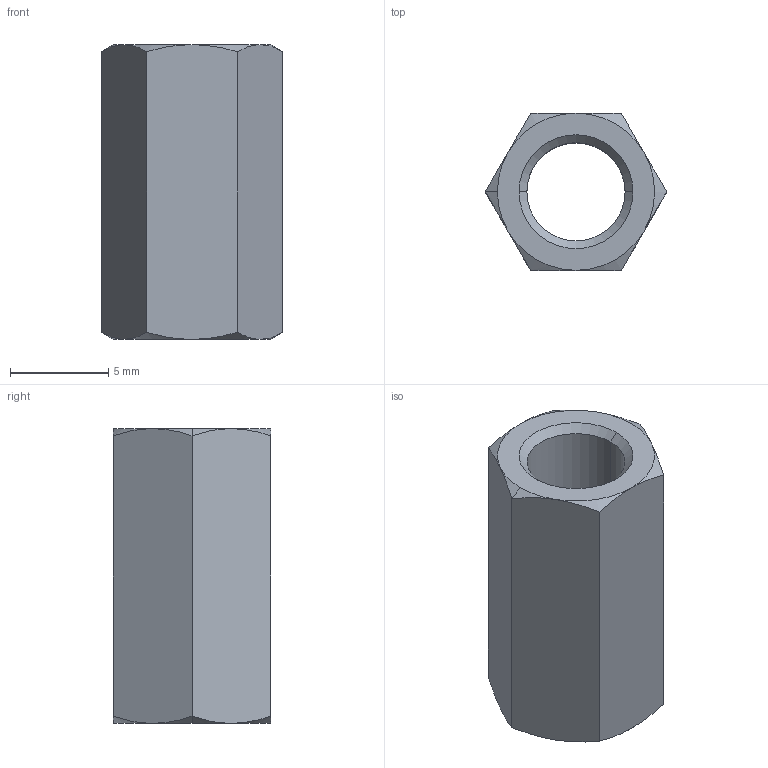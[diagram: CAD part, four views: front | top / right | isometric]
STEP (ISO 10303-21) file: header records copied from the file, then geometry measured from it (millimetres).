
FILE_DESCRIPTION (( 'STEP AP203' ), '1' );
FILE_NAME ('N0503.050-015-NP.step', '2025-02-27T14:44:08', ( '' ), ( '' ), 'SwSTEP 2.0', 'SolidWorks 2019', '' );
FILE_SCHEMA (( 'CONFIG_CONTROL_DESIGN' ));
Length unit declared in the file: millimetre
Products named in the file (1): N0503.050-015-NP
Bounding box: 9.24 x 8 x 15 mm (x, y, z)
Volume: 533.1 mm3; surface area: 710.7 mm2
Topology: 1 solids, 1 shells, 28 faces, 60 edges, 34 vertices
Faces by surface type: cone 18, plane 8, cylinder 2
Entity records: 875 total; most frequent: CARTESIAN_POINT 223, ORIENTED_EDGE 120, DIRECTION 116, EDGE_CURVE 60, AXIS2_PLACEMENT_3D 51, VERTEX_POINT 34, EDGE_LOOP 30, ADVANCED_FACE 28
